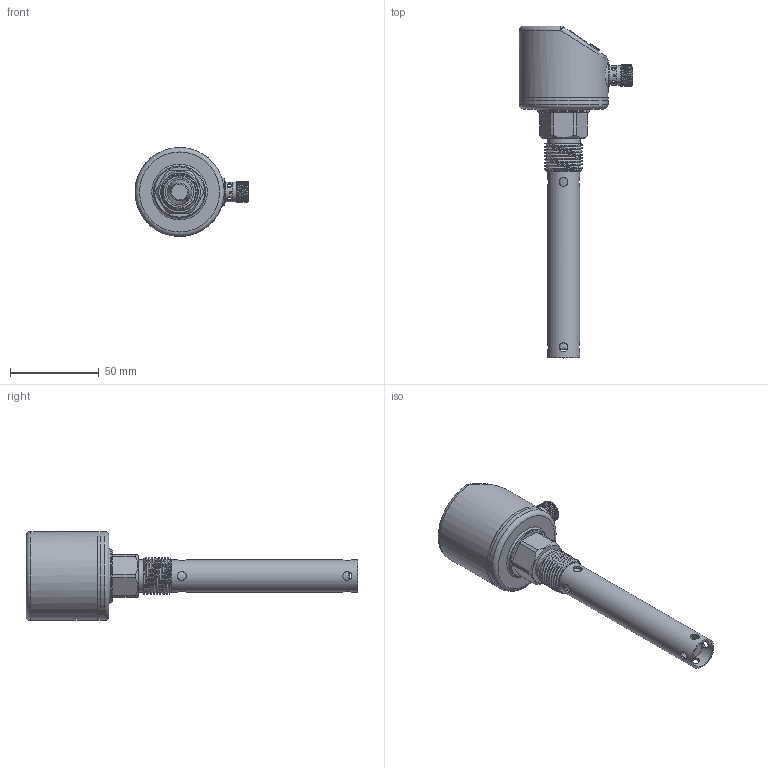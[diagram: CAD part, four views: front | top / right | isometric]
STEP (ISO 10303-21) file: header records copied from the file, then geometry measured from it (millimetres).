
FILE_DESCRIPTION (( 'STEP AP214' ), '1' );
FILE_NAME ('1-2数显电容-100（同轴）.STEP', '2025-03-11T05:43:27', ( '' ), ( '' ), 'SwSTEP 2.0', 'SolidWorks 2020', '' );
FILE_SCHEMA (( 'AUTOMOTIVE_DESIGN' ));
Length unit declared in the file: millimetre
Products named in the file (9): PVC躇猾菜; 肮粣奪; 抻芛ㄗ蟀哿講ㄘ; 恦謫抻芛5; 1-2数显电容-100（同轴）; 揤薯奻裔; 偌瑩簽; 揤薯珆尨欶; 滅阨諉芛褲极1
Assembly tree (10 placements, depth 2):
  1-2数显电容-100（同轴）
    揤薯奻裔
    揤薯珆尨欶
    滅阨諉芛褲极1
    偌瑩簽  x3
    PVC躇猾菜
    恦謫抻芛5
    抻芛ㄗ蟀哿講ㄘ
    肮粣奪
Bounding box: 64 x 186.5 x 50 mm (x, y, z)
Volume: 39692 mm3; surface area: 46348.5 mm2
Topology: 10 solids, 10 shells, 306 faces, 720 edges, 466 vertices
Faces by surface type: plane 126, cylinder 115, cone 39, bspline 11, torus 11, sphere 4
Full cylindrical faces by diameter (mm): 1 x4, 1.2 x3, 1.8 x1, 2 x3, 2.5 x4, 2.8 x1, 4.3 x3, 4.5 x6, 5 x8, 6 x1, 7.2 x1, 8 x1, 8.5 x1, 9.75 x1, 10 x1, 10.49 x1, 10.5 x1, 10.8 x1, 10.9 x1, 11 x2, 12 x1, 16 x1, 18 x1, 18.5 x1, 21 x1, 29.24 x1, 35 x1, 43.9 x1, 45.4 x1, 45.6 x2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
Entity records: 13745 total; most frequent: CARTESIAN_POINT 7166, DIRECTION 1284, ORIENTED_EDGE 1072, EDGE_CURVE 536, AXIS2_PLACEMENT_3D 523, EDGE_LOOP 458, VERTEX_POINT 398, FACE_OUTER_BOUND 344
